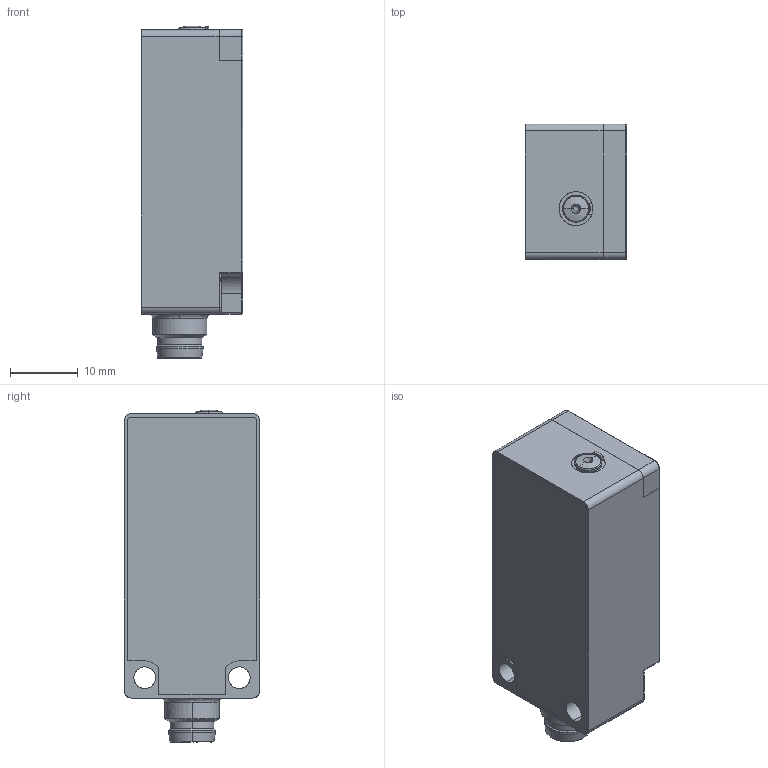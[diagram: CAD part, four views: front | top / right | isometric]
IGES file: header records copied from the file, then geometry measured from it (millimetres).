
Start section: Comment
Global section: file name: FxDK_20_Button_S35A.igs; native system:  By Spatial Corp.; preprocessor: XPlus GENERIC/IGES 3.0; author: Author; organization: Title; date: 20060303.143603; units: inch
Bounding box: 15.01 x 20 x 49.06 mm (x, y, z)
Surface area: 4032.4 mm2 (no closed solid volume)
Topology: 0 solids, 0 shells, 198 faces, 1080 edges, 1076 vertices
Faces by surface type: bspline 198
